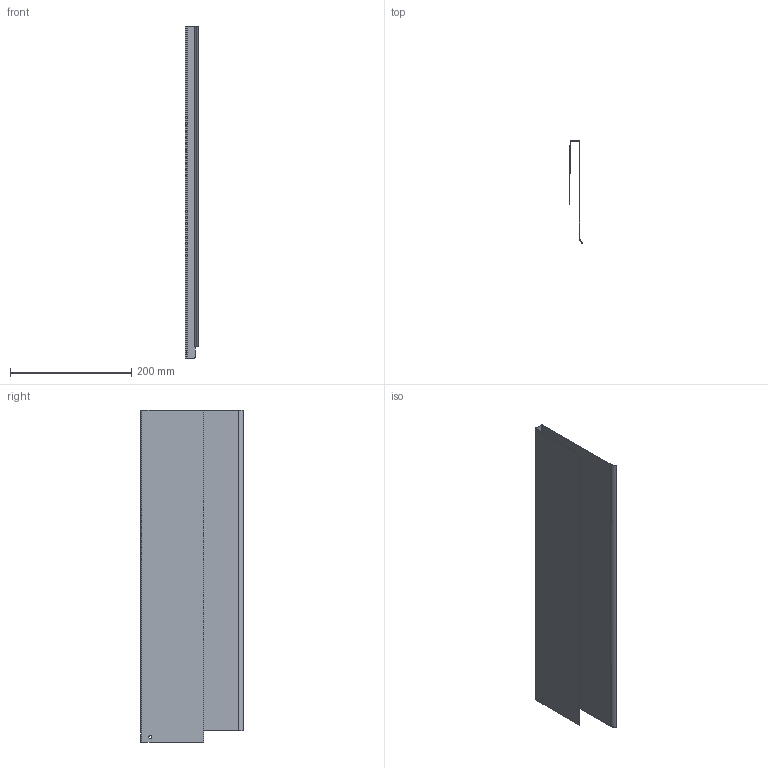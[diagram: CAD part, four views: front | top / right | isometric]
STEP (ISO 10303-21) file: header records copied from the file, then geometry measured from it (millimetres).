
FILE_DESCRIPTION (( 'STEP AP203' ), '1' );
FILE_NAME ('Nova Pro Duowing HRW H186 Deluxe links_NL550.step', '2014-02-14T12:25:05', ( 'test' ), ( '' ), 'SwSTEP 2.0', 'SolidWorks 2013', '' );
FILE_SCHEMA (( 'CONFIG_CONTROL_DESIGN' ));
Length unit declared in the file: millimetre
Products named in the file (1): Nova Pro Duowing HRW H186 Deluxe links_NL550
Bounding box: 21.82 x 169 x 547.5 mm (x, y, z)
Volume: 77321.2 mm3; surface area: 310128.1 mm2
Topology: 1 solids, 1 shells, 29 faces, 66 edges, 39 vertices
Faces by surface type: plane 20, cylinder 9
Entity records: 876 total; most frequent: CARTESIAN_POINT 147, DIRECTION 137, ORIENTED_EDGE 132, EDGE_CURVE 66, VECTOR 47, LINE 47, AXIS2_PLACEMENT_3D 45, VERTEX_POINT 39
